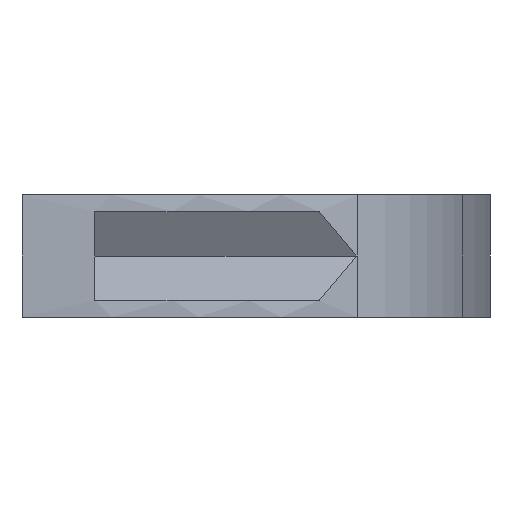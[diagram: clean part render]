
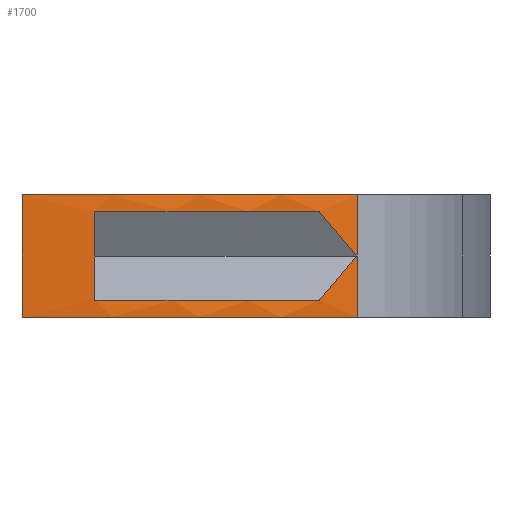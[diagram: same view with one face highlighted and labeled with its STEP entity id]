
A CAD part, front view. The second image highlights one B-rep face of the part: STEP entity #1700.
In plain terms, the highlighted cylindrical face has radius 37 mm (diameter 74 mm), a partial arc.
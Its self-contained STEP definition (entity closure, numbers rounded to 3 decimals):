
#5 = ORIENTED_EDGE ( 'NONE', *, *, #1287, .T. ) ;
#19 = CARTESIAN_POINT ( 'NONE',  ( 0., -0.494, 2.9 ) ) ;
#25 = ORIENTED_EDGE ( 'NONE', *, *, #1448, .T. ) ;
#32 = AXIS2_PLACEMENT_3D ( 'NONE', #19, #426, #830 ) ;
#57 = DIRECTION ( 'NONE',  ( 1., 0., 0. ) ) ;
#70 = DIRECTION ( 'NONE',  ( 0., 0., 1. ) ) ;
#91 = DIRECTION ( 'NONE',  ( 0., 0., -1. ) ) ;
#97 = DIRECTION ( 'NONE',  ( 0., 0., -1. ) ) ;
#103 = EDGE_CURVE ( 'NONE', #1419, #1627, #1014, .T. ) ;
#173 = AXIS2_PLACEMENT_3D ( 'NONE', #1656, #70, #57 ) ;
#184 = LINE ( 'NONE', #1518, #1666 ) ;
#214 = EDGE_CURVE ( 'NONE', #1707, #521, #184, .T. ) ;
#216 = EDGE_CURVE ( 'NONE', #1598, #1707, #931, .T. ) ;
#235 = CARTESIAN_POINT ( 'NONE',  ( 20.519, -31.299, 1.99 ) ) ;
#247 = FACE_OUTER_BOUND ( 'NONE', #342, .T. ) ;
#250 = AXIS2_PLACEMENT_3D ( 'NONE', #356, #91, #511 ) ;
#274 = CARTESIAN_POINT ( 'NONE',  ( 0., -0.494, -4. ) ) ;
#327 = AXIS2_PLACEMENT_3D ( 'NONE', #274, #837, #1074 ) ;
#342 = EDGE_LOOP ( 'NONE', ( #544, #435, #25, #866 ) ) ;
#353 = LINE ( 'NONE', #1663, #1669 ) ;
#355 = DIRECTION ( 'NONE',  ( -1., 0., 0. ) ) ;
#356 = CARTESIAN_POINT ( 'NONE',  ( 0., -0.494, -2.9 ) ) ;
#386 = ORIENTED_EDGE ( 'NONE', *, *, #439, .T. ) ;
#411 = CIRCLE ( 'NONE', #327, 37. ) ;
#426 = DIRECTION ( 'NONE',  ( 0., 0., 1. ) ) ;
#435 = ORIENTED_EDGE ( 'NONE', *, *, #1633, .T. ) ;
#439 = EDGE_CURVE ( 'NONE', #817, #1515, #675, .T. ) ;
#443 = CARTESIAN_POINT ( 'NONE',  ( 19.682, -31.825, 2.9 ) ) ;
#457 = DIRECTION ( 'NONE',  ( 0., 0., -1. ) ) ;
#461 = VERTEX_POINT ( 'NONE', #1107 ) ;
#490 = CARTESIAN_POINT ( 'NONE',  ( 22.181, -30.108, -4. ) ) ;
#511 = DIRECTION ( 'NONE',  ( 0., 1., 0. ) ) ;
#515 = EDGE_CURVE ( 'NONE', #817, #1627, #353, .T. ) ;
#521 = VERTEX_POINT ( 'NONE', #490 ) ;
#544 = ORIENTED_EDGE ( 'NONE', *, *, #216, .F. ) ;
#562 = LINE ( 'NONE', #572, #916 ) ;
#572 = CARTESIAN_POINT ( 'NONE',  ( 0.25, -37.493, 4. ) ) ;
#579 = CARTESIAN_POINT ( 'NONE',  ( 22.125, -30.15, 0. ) ) ;
#648 = CARTESIAN_POINT ( 'NONE',  ( 21.333, -30.741, 1.023 ) ) ;
#649 = ORIENTED_EDGE ( 'NONE', *, *, #1008, .T. ) ;
#675 = CIRCLE ( 'NONE', #32, 37. ) ;
#712 = CARTESIAN_POINT ( 'NONE',  ( 0., -0.494, 4. ) ) ;
#817 = VERTEX_POINT ( 'NONE', #1038 ) ;
#821 = AXIS2_PLACEMENT_3D ( 'NONE', #712, #997, #355 ) ;
#830 = DIRECTION ( 'NONE',  ( 0., -1., 0. ) ) ;
#837 = DIRECTION ( 'NONE',  ( 0., 0., 1. ) ) ;
#866 = ORIENTED_EDGE ( 'NONE', *, *, #214, .F. ) ;
#869 = DIRECTION ( 'NONE',  ( 0., 0., -1. ) ) ;
#883 = CARTESIAN_POINT ( 'NONE',  ( 22.181, -30.108, 4. ) ) ;
#916 = VECTOR ( 'NONE', #457, 1000. ) ;
#931 = CIRCLE ( 'NONE', #173, 37. ) ;
#969 =( BOUNDED_CURVE ( )  B_SPLINE_CURVE ( 3, ( #1434, #235, #648, #1316 ),
 .UNSPECIFIED., .F., .T. ) 
 B_SPLINE_CURVE_WITH_KNOTS ( ( 4, 4 ),
 ( 3.703, 3.783 ),
 .UNSPECIFIED. ) 
 CURVE ( )  GEOMETRIC_REPRESENTATION_ITEM ( )  RATIONAL_B_SPLINE_CURVE ( ( 1., 0.999, 0.999, 1. ) ) 
 REPRESENTATION_ITEM ( '' )  );
#983 = CYLINDRICAL_SURFACE ( 'NONE', #821, 37. ) ;
#997 = DIRECTION ( 'NONE',  ( 0., 0., -1. ) ) ;
#1008 = EDGE_CURVE ( 'NONE', #1515, #1360, #969, .T. ) ;
#1014 = CIRCLE ( 'NONE', #250, 37. ) ;
#1028 = EDGE_LOOP ( 'NONE', ( #649, #5, #1704, #1667, #386 ) ) ;
#1038 = CARTESIAN_POINT ( 'NONE',  ( 5., -37.155, 2.9 ) ) ;
#1074 = DIRECTION ( 'NONE',  ( 1., 0., 0. ) ) ;
#1107 = CARTESIAN_POINT ( 'NONE',  ( 0.25, -37.493, -4. ) ) ;
#1210 = CARTESIAN_POINT ( 'NONE',  ( 0.25, -37.493, 4. ) ) ;
#1233 = CARTESIAN_POINT ( 'NONE',  ( 5., -37.155, -2.9 ) ) ;
#1287 = EDGE_CURVE ( 'NONE', #1360, #1419, #1383, .T. ) ;
#1316 = CARTESIAN_POINT ( 'NONE',  ( 22.125, -30.15, 0. ) ) ;
#1324 = CARTESIAN_POINT ( 'NONE',  ( 20.519, -31.299, -1.99 ) ) ;
#1331 = CARTESIAN_POINT ( 'NONE',  ( 19.682, -31.825, -2.9 ) ) ;
#1360 = VERTEX_POINT ( 'NONE', #579 ) ;
#1383 =( BOUNDED_CURVE ( )  B_SPLINE_CURVE ( 3, ( #1466, #1451, #1324, #1331 ),
 .UNSPECIFIED., .F., .T. ) 
 B_SPLINE_CURVE_WITH_KNOTS ( ( 4, 4 ),
 ( 5.642, 5.722 ),
 .UNSPECIFIED. ) 
 CURVE ( )  GEOMETRIC_REPRESENTATION_ITEM ( )  RATIONAL_B_SPLINE_CURVE ( ( 1., 0.999, 0.999, 1. ) ) 
 REPRESENTATION_ITEM ( '' )  );
#1419 = VERTEX_POINT ( 'NONE', #1626 ) ;
#1434 = CARTESIAN_POINT ( 'NONE',  ( 19.682, -31.825, 2.9 ) ) ;
#1436 = FACE_BOUND ( 'NONE', #1028, .T. ) ;
#1448 = EDGE_CURVE ( 'NONE', #461, #521, #411, .T. ) ;
#1451 = CARTESIAN_POINT ( 'NONE',  ( 21.333, -30.741, -1.023 ) ) ;
#1466 = CARTESIAN_POINT ( 'NONE',  ( 22.125, -30.15, 0. ) ) ;
#1515 = VERTEX_POINT ( 'NONE', #443 ) ;
#1518 = CARTESIAN_POINT ( 'NONE',  ( 22.181, -30.108, 4. ) ) ;
#1598 = VERTEX_POINT ( 'NONE', #1210 ) ;
#1626 = CARTESIAN_POINT ( 'NONE',  ( 19.682, -31.825, -2.9 ) ) ;
#1627 = VERTEX_POINT ( 'NONE', #1233 ) ;
#1633 = EDGE_CURVE ( 'NONE', #1598, #461, #562, .T. ) ;
#1656 = CARTESIAN_POINT ( 'NONE',  ( 0., -0.494, 4. ) ) ;
#1663 = CARTESIAN_POINT ( 'NONE',  ( 5., -37.155, 4. ) ) ;
#1666 = VECTOR ( 'NONE', #869, 1000. ) ;
#1667 = ORIENTED_EDGE ( 'NONE', *, *, #515, .F. ) ;
#1669 = VECTOR ( 'NONE', #97, 1000. ) ;
#1700 = ADVANCED_FACE ( 'NONE', ( #1436, #247 ), #983, .T. ) ;
#1704 = ORIENTED_EDGE ( 'NONE', *, *, #103, .T. ) ;
#1707 = VERTEX_POINT ( 'NONE', #883 ) ;
